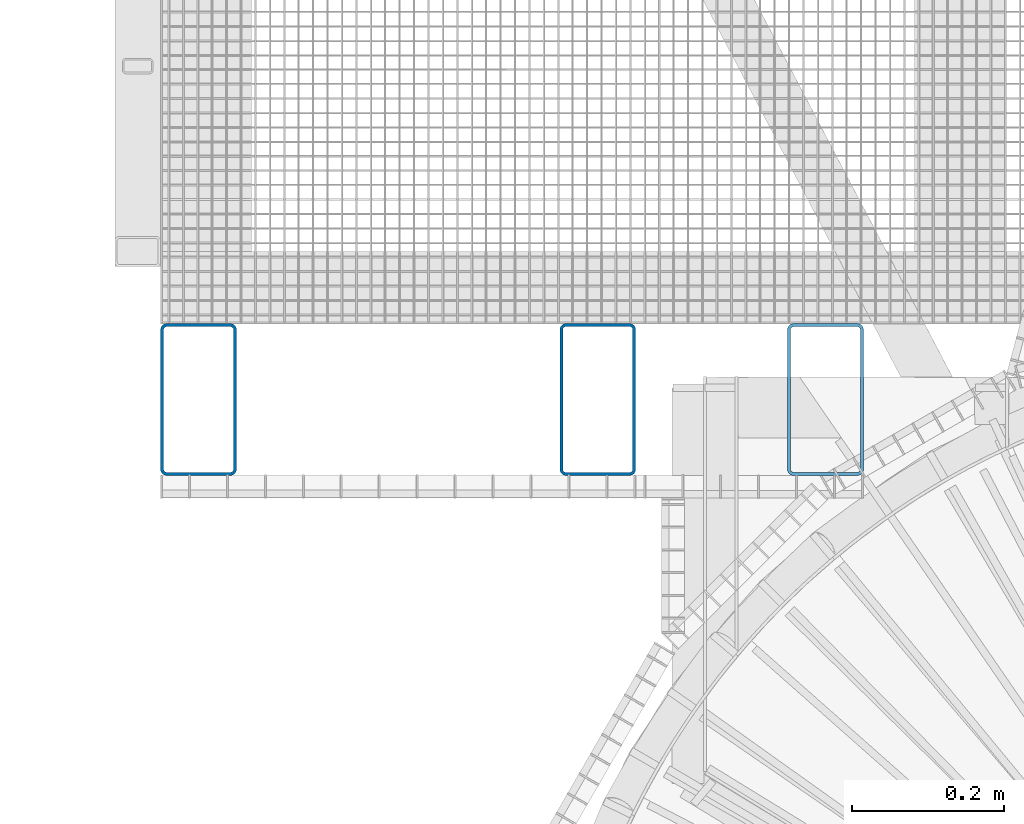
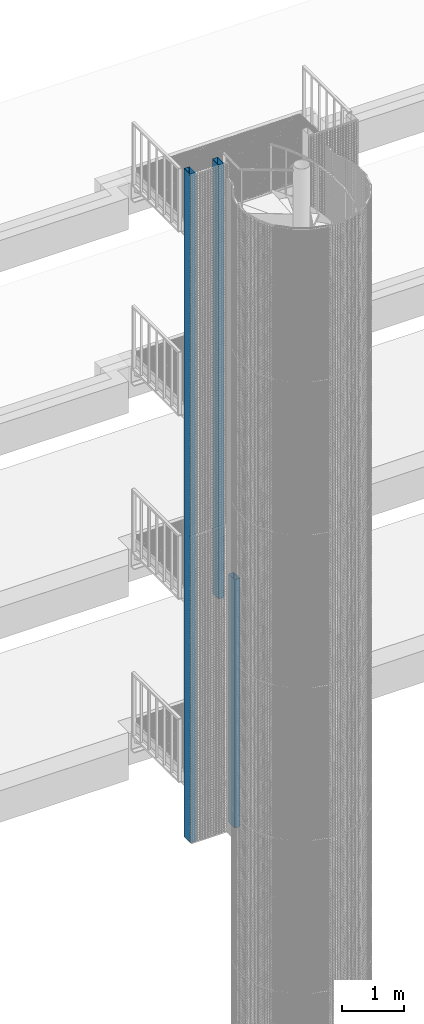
# One storey, part 21 of 1183: 3 columns, 3 elements without a shape of their own.
"""IFC2X3 building model written with IfcOpenShell, lengths in millimetres."""

from ifc_helpers import new_model, si_unit, frame, origin_with_axes, origin_2d_with_axis, place, context, subcontext, project, spatial, hollow_rectangle, extrude, material, type_object, element, aggregate, save


model = new_model("IFC2X3")

# Units and contexts
model_context = context("Model", 3, precision=1e-05, world=origin_with_axes())
body_context = subcontext(model_context, "Body", "Model", "MODEL_VIEW")
ifc_project = project(units=[si_unit("LENGTHUNIT", "METRE", prefix="MILLI"), si_unit("AREAUNIT", "SQUARE_METRE"), si_unit("VOLUMEUNIT", "CUBIC_METRE"), si_unit("MASSUNIT", "GRAM", prefix="KILO"), si_unit("TIMEUNIT", "SECOND"), si_unit("PLANEANGLEUNIT", "RADIAN"), si_unit("SOLIDANGLEUNIT", "STERADIAN"), si_unit("THERMODYNAMICTEMPERATUREUNIT", "DEGREE_CELSIUS"), si_unit("LUMINOUSINTENSITYUNIT", "LUMEN")], contexts=[model_context])

# Site, building, storey
site_placement = place(None, origin_with_axes())
site = spatial("IfcSite", under=ifc_project, at=site_placement, Name="Undefined", CompositionType="ELEMENT")
building_placement = place(site_placement, origin_with_axes())
building = spatial("IfcBuilding", under=site, at=building_placement, Name="Undefined", CompositionType="ELEMENT")
storey_placement = place(building_placement, origin_with_axes())
storey = spatial("IfcBuildingStorey", under=building, at=storey_placement, Name="Undefined", CompositionType="ELEMENT", Elevation=0.0)

# Assembly, column
assembly_1_placement = place(storey_placement, origin_with_axes())
assembly_1 = element("IfcElementAssembly", 1, at=assembly_1_placement, inside=storey, AssemblyPlace="NOTDEFINED", PredefinedType="NOTDEFINED")
ifc_material = material(Name="STEEL/S235JR")
column_type = type_object("IfcColumnType", Name="TUBE-R-200*100*4", PredefinedType="NOTDEFINED")
column_1_placement = place(assembly_1_placement, frame((-973.920410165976, 999.994689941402, 9770.00000000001), z_axis=(0.0, 0.0, 1.0), x_axis=(0.0, 1.0, 0.0)))
column_1 = element("IfcColumn", 2, at=column_1_placement, type_object=column_type, material=ifc_material, Name="EXISTANTS", context=body_context, shape_type="SweptSolid", body=[
    extrude(hollow_rectangle(XDim=100.0, YDim=200.0, WallThickness=4.0, InnerFilletRadius=4.0, OuterFilletRadius=8.0, at=origin_2d_with_axis()), frame((0.0, 0.0, 8519.99999999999), z_axis=(0.0, 0.0, -1.0), x_axis=(0.0, 1.0, 0.0)), (0.0, 0.0, 1.0), 8520.0),
])
aggregate(assembly_1, [column_1])

assembly_2_placement = place(storey_placement, origin_with_axes())
assembly_2 = element("IfcElementAssembly", 3, at=assembly_2_placement, inside=storey, AssemblyPlace="NOTDEFINED", PredefinedType="NOTDEFINED")
column_2_placement = place(assembly_2_placement, frame((-673.920410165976, 999.994689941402, 5170.0), z_axis=(0.0, 0.0, 1.0), x_axis=(0.0, 1.0, 0.0)))
column_2 = element("IfcColumn", 4, at=column_2_placement, type_object=column_type, material=ifc_material, Name="EXISTANTS", context=body_context, shape_type="SweptSolid", body=[
    extrude(hollow_rectangle(XDim=100.0, YDim=200.0, WallThickness=4.0, InnerFilletRadius=4.0, OuterFilletRadius=8.0, at=origin_2d_with_axis()), frame((0.0, 0.0, 4870.00000000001), z_axis=(0.0, 0.0, -1.0), x_axis=(0.0, 1.0, 0.0)), (0.0, 0.0, 1.0), 4870.0),
])
aggregate(assembly_2, [column_2])

assembly_3_placement = place(storey_placement, origin_with_axes())
assembly_3 = element("IfcElementAssembly", 5, at=assembly_3_placement, inside=storey, AssemblyPlace="NOTDEFINED", PredefinedType="NOTDEFINED")
column_3_placement = place(assembly_3_placement, frame((-1499.92041016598, 999.994689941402, 5170.0), z_axis=(0.0, 0.0, 1.0), x_axis=(0.0, 1.0, 0.0)))
column_3 = element("IfcColumn", 6, at=column_3_placement, type_object=column_type, material=ifc_material, Name="EXISTANTS", context=body_context, shape_type="SweptSolid", body=[
    extrude(hollow_rectangle(XDim=100.0, YDim=200.0, WallThickness=4.0, InnerFilletRadius=4.0, OuterFilletRadius=8.0, at=origin_2d_with_axis()), frame((0.0, 0.0, 13120.0), z_axis=(0.0, 0.0, -1.0), x_axis=(0.0, 1.0, 0.0)), (0.0, 0.0, 1.0), 13120.0),
])
aggregate(assembly_3, [column_3])

save(model, "model.ifc")
